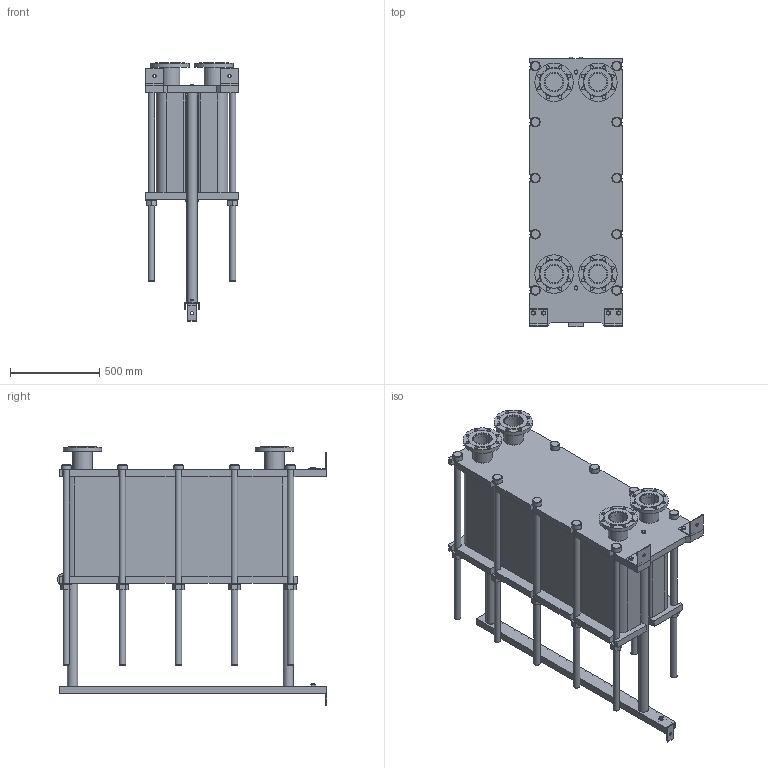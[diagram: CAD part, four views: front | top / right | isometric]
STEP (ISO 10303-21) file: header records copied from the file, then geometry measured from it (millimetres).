
FILE_DESCRIPTION(/* description */ (''),/* implementation_level */ '2;1');
FILE_NAME(/* name */ 'C:\Users\zhuro\Desktop\ENCO\TO\ЭН-04\ЭН-0,5-04-161-1.stp',/* time_stamp */ '2022-06-06T10:59:37+03:00',/* author */ ('zhuro'),/* organization */ (''),/* preprocessor_version */ 'ST-DEVELOPER v18.1',/* originating_system */ 'Autodesk Inventor 2022',/* authorisation */ '');
FILE_SCHEMA (('AUTOMOTIVE_DESIGN { 1 0 10303 214 3 1 1 }'));
Length unit declared in the file: millimetre
Products named in the file (1): ЭН-0,5-04-161-1
Bounding box: 520 x 1510 x 1450.5 mm (x, y, z)
Volume: 352079084 mm3; surface area: 9696657.7 mm2
Topology: 45 solids, 45 shells, 668 faces, 1611 edges, 1048 vertices
Faces by surface type: plane 457, cylinder 166, cone 39, torus 6
Full cylindrical faces by diameter (mm): 8 x4, 10 x2, 16 x8, 18 x35, 36 x25, 40 x2, 42 x1, 45 x4, 54 x10, 57 x2, 60 x10, 68 x2, 100 x4, 110 x8, 215 x4
Entity records: 23607 total; most frequent: CARTESIAN_POINT 7348, DIRECTION 3371, ORIENTED_EDGE 3142, EDGE_CURVE 1571, AXIS2_PLACEMENT_3D 1199, VERTEX_POINT 1044, LINE 973, VECTOR 973
